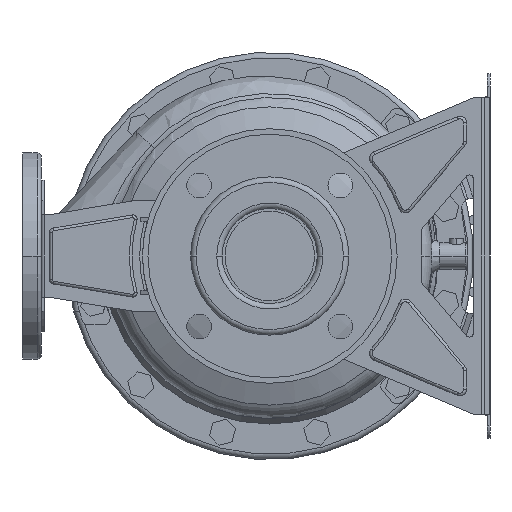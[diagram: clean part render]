
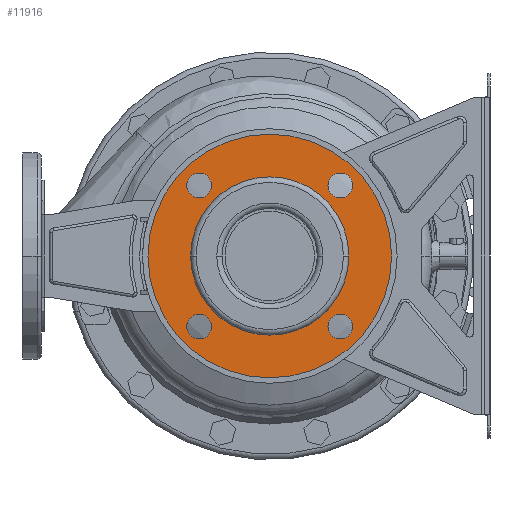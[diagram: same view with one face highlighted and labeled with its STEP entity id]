
A CAD part, left-side view. The second image highlights one B-rep face of the part: STEP entity #11916.
In plain terms, the highlighted planar face has unit normal (-1, 0, 0).
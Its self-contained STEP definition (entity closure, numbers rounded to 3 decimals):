
#11249=CARTESIAN_POINT('',(12.,0.,0.));
#11250=DIRECTION('',(-1.,0.,0.));
#11251=DIRECTION('',(0.,1.,0.));
#11252=AXIS2_PLACEMENT_3D('',#11249,#11250,#11251);
#11257=CARTESIAN_POINT('',(12.,0.,0.));
#11258=DIRECTION('',(1.,0.,0.));
#11259=DIRECTION('',(0.,1.,0.));
#11260=AXIS2_PLACEMENT_3D('',#11257,#11258,#11259);
#11265=CARTESIAN_POINT('',(12.,-51.265,51.265));
#11266=DIRECTION('',(1.,0.,0.));
#11267=DIRECTION('',(0.,1.,0.));
#11268=AXIS2_PLACEMENT_3D('',#11265,#11266,#11267);
#11273=CARTESIAN_POINT('',(12.,-51.265,51.265));
#11274=DIRECTION('',(1.,0.,0.));
#11275=DIRECTION('',(0.,-1.,0.));
#11276=AXIS2_PLACEMENT_3D('',#11273,#11274,#11275);
#11281=CARTESIAN_POINT('',(12.,-51.265,-51.265));
#11282=DIRECTION('',(1.,0.,0.));
#11283=DIRECTION('',(0.,0.,1.));
#11284=AXIS2_PLACEMENT_3D('',#11281,#11282,#11283);
#11289=CARTESIAN_POINT('',(12.,-51.265,-51.265));
#11290=DIRECTION('',(1.,0.,0.));
#11291=DIRECTION('',(0.,0.,-1.));
#11292=AXIS2_PLACEMENT_3D('',#11289,#11290,#11291);
#11297=CARTESIAN_POINT('',(12.,51.265,-51.265));
#11298=DIRECTION('',(1.,0.,0.));
#11299=DIRECTION('',(0.,-1.,0.));
#11300=AXIS2_PLACEMENT_3D('',#11297,#11298,#11299);
#11305=CARTESIAN_POINT('',(12.,51.265,-51.265));
#11306=DIRECTION('',(1.,0.,0.));
#11307=DIRECTION('',(0.,1.,0.));
#11308=AXIS2_PLACEMENT_3D('',#11305,#11306,#11307);
#11313=CARTESIAN_POINT('',(12.,51.265,51.265));
#11314=DIRECTION('',(1.,0.,0.));
#11315=DIRECTION('',(0.,0.,-1.));
#11316=AXIS2_PLACEMENT_3D('',#11313,#11314,#11315);
#11321=CARTESIAN_POINT('',(12.,51.265,51.265));
#11322=DIRECTION('',(1.,0.,0.));
#11323=DIRECTION('',(0.,0.,1.));
#11324=AXIS2_PLACEMENT_3D('',#11321,#11322,#11323);
#11329=CARTESIAN_POINT('',(12.,0.,0.));
#11330=DIRECTION('',(1.,0.,0.));
#11331=DIRECTION('',(0.,1.,0.));
#11332=AXIS2_PLACEMENT_3D('',#11329,#11330,#11331);
#11351=CARTESIAN_POINT('',(12.,0.,0.));
#11352=DIRECTION('',(-1.,0.,0.));
#11353=DIRECTION('',(0.,1.,0.));
#11354=AXIS2_PLACEMENT_3D('',#11351,#11352,#11353);
#11516=CARTESIAN_POINT('',(12.,88.5,0.));
#11518=VERTEX_POINT('',#11516);
#11519=CARTESIAN_POINT('',(12.,57.5,0.));
#11521=VERTEX_POINT('',#11519);
#11548=CARTESIAN_POINT('',(12.,-88.5,0.));
#11550=VERTEX_POINT('',#11548);
#11551=CARTESIAN_POINT('',(12.,-57.5,0.));
#11553=VERTEX_POINT('',#11551);
#11563=CARTESIAN_POINT('',(12.,-42.265,51.265));
#11564=CARTESIAN_POINT('',(12.,-60.265,51.265));
#11565=VERTEX_POINT('',#11563);
#11566=VERTEX_POINT('',#11564);
#11571=CARTESIAN_POINT('',(12.,-51.265,-42.265));
#11572=CARTESIAN_POINT('',(12.,-51.265,-60.265));
#11573=VERTEX_POINT('',#11571);
#11574=VERTEX_POINT('',#11572);
#11579=CARTESIAN_POINT('',(12.,42.265,-51.265));
#11580=CARTESIAN_POINT('',(12.,60.265,-51.265));
#11581=VERTEX_POINT('',#11579);
#11582=VERTEX_POINT('',#11580);
#11587=CARTESIAN_POINT('',(12.,51.265,42.265));
#11588=CARTESIAN_POINT('',(12.,51.265,60.265));
#11589=VERTEX_POINT('',#11587);
#11590=VERTEX_POINT('',#11588);
#11877=CARTESIAN_POINT('',(12.,0.,0.));
#11878=DIRECTION('',(1.,0.,0.));
#11879=DIRECTION('',(0.,-1.,0.));
#11880=AXIS2_PLACEMENT_3D('',#11877,#11878,#11879);
#11881=PLANE('',#11880);
#11882=ORIENTED_EDGE('',*,*,#11870,.F.);
#11883=ORIENTED_EDGE('',*,*,#11859,.T.);
#11884=EDGE_LOOP('',(#11882,#11883));
#11885=FACE_OUTER_BOUND('',#11884,.F.);
#11887=ORIENTED_EDGE('',*,*,#11886,.F.);
#11889=ORIENTED_EDGE('',*,*,#11888,.T.);
#11890=EDGE_LOOP('',(#11887,#11889));
#11891=FACE_BOUND('',#11890,.F.);
#11893=ORIENTED_EDGE('',*,*,#11892,.F.);
#11895=ORIENTED_EDGE('',*,*,#11894,.F.);
#11896=EDGE_LOOP('',(#11893,#11895));
#11897=FACE_BOUND('',#11896,.F.);
#11899=ORIENTED_EDGE('',*,*,#11898,.F.);
#11901=ORIENTED_EDGE('',*,*,#11900,.F.);
#11902=EDGE_LOOP('',(#11899,#11901));
#11903=FACE_BOUND('',#11902,.F.);
#11905=ORIENTED_EDGE('',*,*,#11904,.F.);
#11907=ORIENTED_EDGE('',*,*,#11906,.F.);
#11908=EDGE_LOOP('',(#11905,#11907));
#11909=FACE_BOUND('',#11908,.F.);
#11911=ORIENTED_EDGE('',*,*,#11910,.F.);
#11913=ORIENTED_EDGE('',*,*,#11912,.F.);
#11914=EDGE_LOOP('',(#11911,#11913));
#11915=FACE_BOUND('',#11914,.F.);
#11253=CIRCLE('',#11252,88.5);
#11261=CIRCLE('',#11260,88.5);
#11269=CIRCLE('',#11268,9.);
#11277=CIRCLE('',#11276,9.);
#11285=CIRCLE('',#11284,9.);
#11293=CIRCLE('',#11292,9.);
#11301=CIRCLE('',#11300,9.);
#11309=CIRCLE('',#11308,9.);
#11317=CIRCLE('',#11316,9.);
#11325=CIRCLE('',#11324,9.);
#11333=CIRCLE('',#11332,57.5);
#11355=CIRCLE('',#11354,57.5);
#11859=EDGE_CURVE('',#11518,#11550,#11261,.T.);
#11870=EDGE_CURVE('',#11518,#11550,#11253,.T.);
#11886=EDGE_CURVE('',#11521,#11553,#11333,.T.);
#11888=EDGE_CURVE('',#11521,#11553,#11355,.T.);
#11892=EDGE_CURVE('',#11565,#11566,#11269,.T.);
#11894=EDGE_CURVE('',#11566,#11565,#11277,.T.);
#11898=EDGE_CURVE('',#11573,#11574,#11285,.T.);
#11900=EDGE_CURVE('',#11574,#11573,#11293,.T.);
#11904=EDGE_CURVE('',#11581,#11582,#11301,.T.);
#11906=EDGE_CURVE('',#11582,#11581,#11309,.T.);
#11910=EDGE_CURVE('',#11589,#11590,#11317,.T.);
#11912=EDGE_CURVE('',#11590,#11589,#11325,.T.);
#11916=ADVANCED_FACE('',(#11885,#11891,#11897,#11903,#11909,#11915),#11881,.F.);
